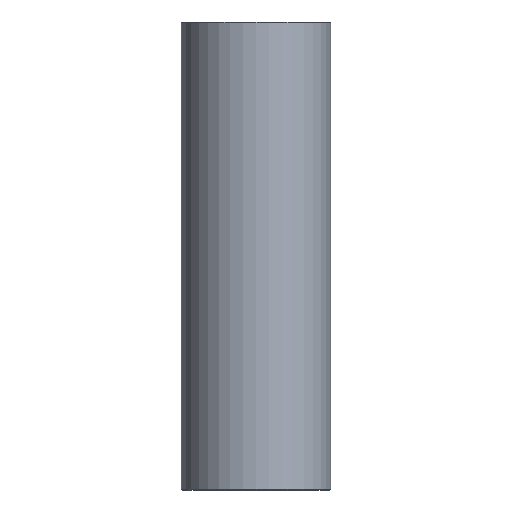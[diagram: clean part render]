
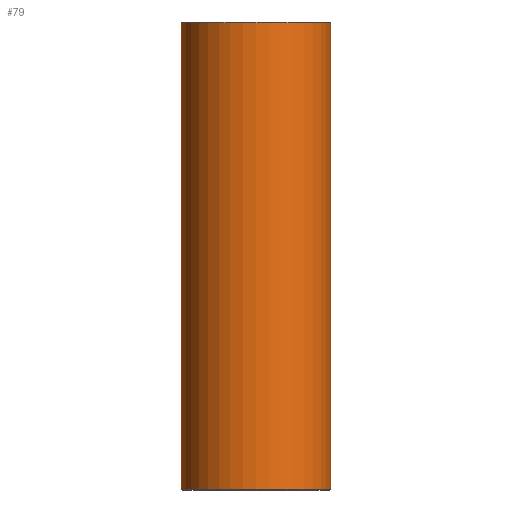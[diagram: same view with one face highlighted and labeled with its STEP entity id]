
A CAD part, front view. The second image highlights one B-rep face of the part: STEP entity #79.
In plain terms, the highlighted cylindrical face has radius 16 mm (diameter 32 mm), a full revolution.
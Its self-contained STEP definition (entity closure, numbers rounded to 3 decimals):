
#79=ADVANCED_FACE('',(#96,#97),#98,.T.);
#96=FACE_OUTER_BOUND('',#120,.T.);
#97=FACE_OUTER_BOUND('',#121,.T.);
#98=CYLINDRICAL_SURFACE('',#122,16.0);
#120=EDGE_LOOP('',(#152));
#121=EDGE_LOOP('',(#153));
#122=AXIS2_PLACEMENT_3D('',#154,#155,#156);
#152=ORIENTED_EDGE('',*,*,#178,.T.);
#153=ORIENTED_EDGE('',*,*,#177,.T.);
#154=CARTESIAN_POINT('',(0.0,0.0,100.0));
#155=DIRECTION('',(0.0,0.0,-1.0));
#156=DIRECTION('',(-1.0,0.0,0.0));
#177=EDGE_CURVE('',#190,#190,#191,.T.);
#178=EDGE_CURVE('',#192,#192,#193,.F.);
#190=VERTEX_POINT('',#206);
#191=CIRCLE('',#207,16.0);
#192=VERTEX_POINT('',#208);
#193=CIRCLE('',#209,16.0);
#206=CARTESIAN_POINT('',(16.0,0.0,0.2));
#207=AXIS2_PLACEMENT_3D('',#227,#228,#229);
#208=CARTESIAN_POINT('',(16.0,0.,99.8));
#209=AXIS2_PLACEMENT_3D('',#230,#231,#232);
#227=CARTESIAN_POINT('',(0.0,0.0,0.2));
#228=DIRECTION('',(0.0,0.0,1.0));
#229=DIRECTION('',(1.0,0.0,0.0));
#230=CARTESIAN_POINT('',(0.0,0.0,99.8));
#231=DIRECTION('',(0.0,0.0,1.0));
#232=DIRECTION('',(1.0,0.0,0.0));
